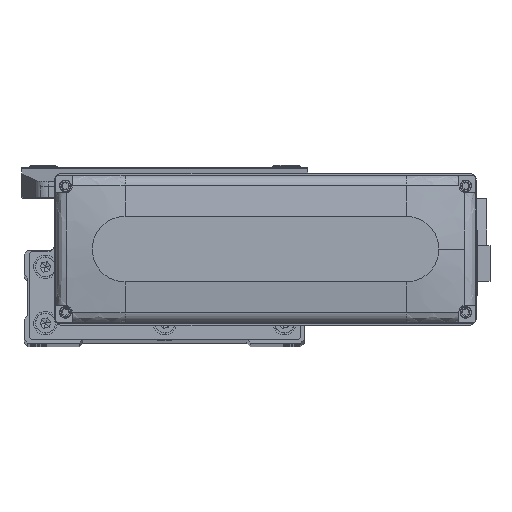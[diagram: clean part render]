
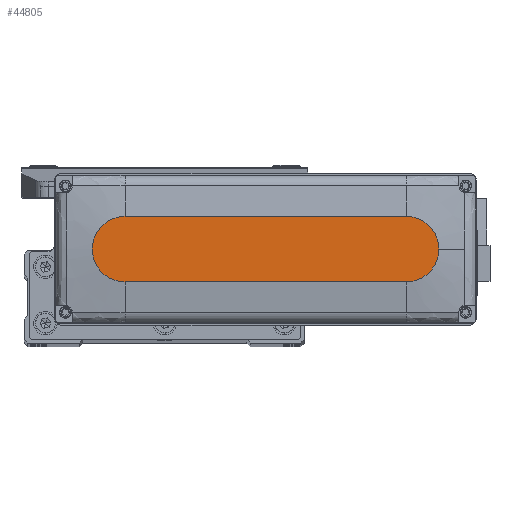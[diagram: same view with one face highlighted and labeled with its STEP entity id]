
A CAD part, top view. The second image highlights one B-rep face of the part: STEP entity #44805.
In plain terms, the highlighted planar face has unit normal (0, 0, 1).
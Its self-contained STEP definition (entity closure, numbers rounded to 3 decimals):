
#104 = CARTESIAN_POINT ( 'NONE',  ( 60., -14., 28.5 ) ) ;
#158 = EDGE_CURVE ( 'NONE', #10104, #13941, #1499, .T. ) ;
#407 = ORIENTED_EDGE ( 'NONE', *, *, #1682, .T. ) ;
#547 = FACE_OUTER_BOUND ( 'NONE', #15522, .T. ) ;
#814 = AXIS2_PLACEMENT_3D ( 'NONE', #33638, #1287, #15712 ) ;
#1287 = DIRECTION ( 'NONE',  ( 0., 0., 1. ) ) ;
#1390 = DIRECTION ( 'NONE',  ( 0., 0., 1. ) ) ;
#1499 = CIRCLE ( 'NONE', #814, 14. ) ;
#1682 = EDGE_CURVE ( 'NONE', #13941, #5719, #4970, .T. ) ;
#2202 = EDGE_CURVE ( 'NONE', #10381, #32202, #21493, .T. ) ;
#4193 = AXIS2_PLACEMENT_3D ( 'NONE', #33744, #1390, #15816 ) ;
#4537 = LINE ( 'NONE', #18948, #31227 ) ;
#4714 = ORIENTED_EDGE ( 'NONE', *, *, #158, .T. ) ;
#4970 = CIRCLE ( 'NONE', #4193, 14. ) ;
#5719 = VERTEX_POINT ( 'NONE', #10941 ) ;
#7840 = EDGE_CURVE ( 'NONE', #32202, #10104, #42227, .T. ) ;
#9988 = CARTESIAN_POINT ( 'NONE',  ( -60., -14., 28.5 ) ) ;
#10104 = VERTEX_POINT ( 'NONE', #104 ) ;
#10381 = VERTEX_POINT ( 'NONE', #16605 ) ;
#10941 = CARTESIAN_POINT ( 'NONE',  ( 60., 14., 28.5 ) ) ;
#11439 = DIRECTION ( 'NONE',  ( 1., 0., 0. ) ) ;
#12105 = AXIS2_PLACEMENT_3D ( 'NONE', #29362, #43680, #11439 ) ;
#12451 = DIRECTION ( 'NONE',  ( 0., 0., 1. ) ) ;
#13941 = VERTEX_POINT ( 'NONE', #45911 ) ;
#14977 = PLANE ( 'NONE',  #12105 ) ;
#15522 = EDGE_LOOP ( 'NONE', ( #44951, #42108, #35047, #4714, #407 ) ) ;
#15712 = DIRECTION ( 'NONE',  ( 1., 0., 0. ) ) ;
#15816 = DIRECTION ( 'NONE',  ( 1., 0., 0. ) ) ;
#16605 = CARTESIAN_POINT ( 'NONE',  ( -60., 14., 28.5 ) ) ;
#18266 = VECTOR ( 'NONE', #24353, 1000. ) ;
#18948 = CARTESIAN_POINT ( 'NONE',  ( -60., 14., 28.5 ) ) ;
#21493 = CIRCLE ( 'NONE', #46374, 14. ) ;
#21662 = EDGE_CURVE ( 'NONE', #5719, #10381, #4537, .T. ) ;
#24353 = DIRECTION ( 'NONE',  ( 1., 0., 0. ) ) ;
#26833 = DIRECTION ( 'NONE',  ( 1., 0., 0. ) ) ;
#29362 = CARTESIAN_POINT ( 'NONE',  ( 0., 0., 28.5 ) ) ;
#31227 = VECTOR ( 'NONE', #33347, 1000. ) ;
#32202 = VERTEX_POINT ( 'NONE', #36656 ) ;
#33347 = DIRECTION ( 'NONE',  ( -1., 0., 0. ) ) ;
#33638 = CARTESIAN_POINT ( 'NONE',  ( 60., 0., 28.5 ) ) ;
#33744 = CARTESIAN_POINT ( 'NONE',  ( 60., 0., 28.5 ) ) ;
#35047 = ORIENTED_EDGE ( 'NONE', *, *, #7840, .T. ) ;
#36656 = CARTESIAN_POINT ( 'NONE',  ( -60., -14., 28.5 ) ) ;
#42108 = ORIENTED_EDGE ( 'NONE', *, *, #2202, .T. ) ;
#42227 = LINE ( 'NONE', #9988, #18266 ) ;
#43680 = DIRECTION ( 'NONE',  ( 0., 0., 1. ) ) ;
#44686 = CARTESIAN_POINT ( 'NONE',  ( -60., 0., 28.5 ) ) ;
#44805 = ADVANCED_FACE ( 'NONE', ( #547 ), #14977, .T. ) ;
#44951 = ORIENTED_EDGE ( 'NONE', *, *, #21662, .T. ) ;
#45911 = CARTESIAN_POINT ( 'NONE',  ( 74., 0., 28.5 ) ) ;
#46374 = AXIS2_PLACEMENT_3D ( 'NONE', #44686, #12451, #26833 ) ;
